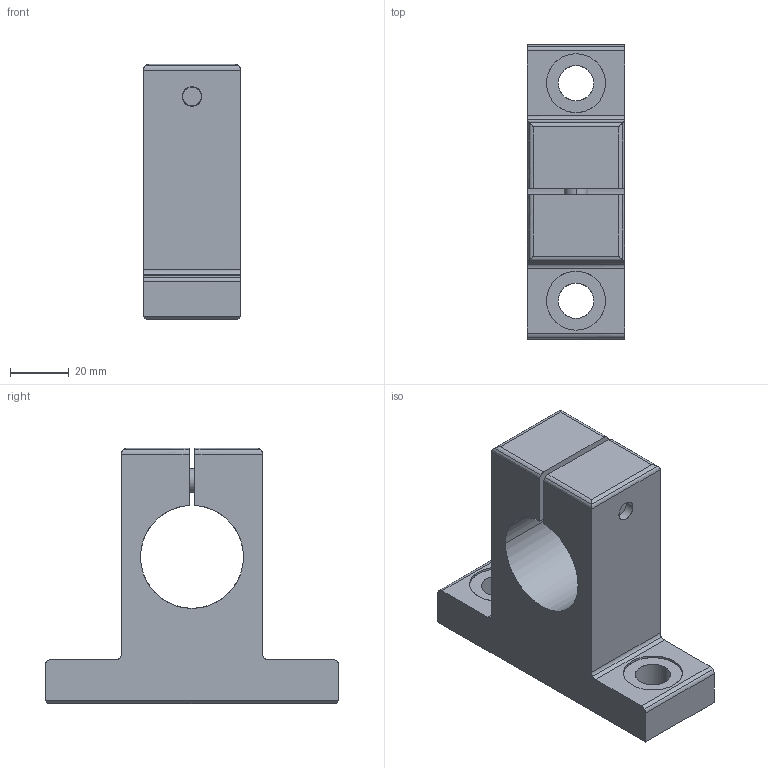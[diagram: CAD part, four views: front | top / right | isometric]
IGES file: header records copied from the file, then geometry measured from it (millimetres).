
Global section: file name: No Iges File Name specified; native system: AutoDesk Inventor R10; preprocessor: AutoDesk Inventor Iges Exporter R10; author: No Author specified; organization: No Organization specified; date: 20101214.152621; units: millimetre
Bounding box: 33 x 100 x 87 mm (x, y, z)
Surface area: 26966.6 mm2 (no closed solid volume)
Topology: 0 solids, 0 shells, 76 faces, 462 edges, 460 vertices
Faces by surface type: bspline 76
